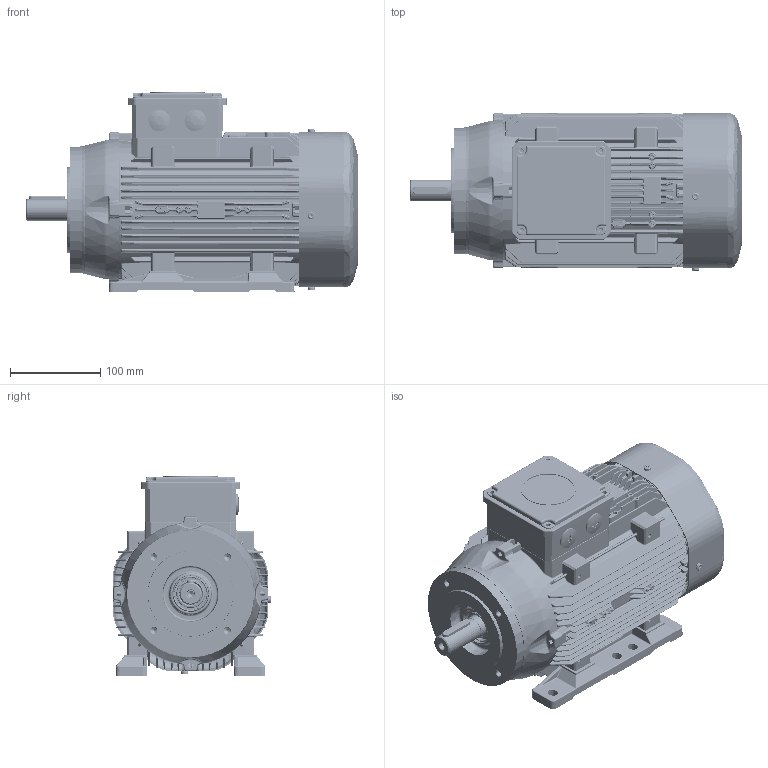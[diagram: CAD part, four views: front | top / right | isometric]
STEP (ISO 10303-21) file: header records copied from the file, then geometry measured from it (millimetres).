
FILE_DESCRIPTION(/* description */ (''),/* implementation_level */ '2;1');
FILE_NAME(/* name */ 'OUTLOOK VIEW QH90 PC B34 FT115 SPL.stp',/* time_stamp */ '2021-09-21T14:13:08+03:00',/* author */ (''),/* organization */ (''),/* preprocessor_version */ 'ST-DEVELOPER v16',/* originating_system */ 'SIEMENS PLM Software NX 11.0',/* authorisation */ '');
FILE_SCHEMA (('AUTOMOTIVE_DESIGN { 1 0 10303 214 3 1 1 1 }'));
Products named in the file (1): 260652D491E0rwf2
Bounding box: 367.71 x 175.21 x 221.3 mm (x, y, z)
Volume: 1769746.5 mm3; surface area: 1021370.2 mm2
Topology: 41 solids, 50 shells, 11209 faces, 26810 edges, 15337 vertices
Faces by surface type: cylinder 3689, bspline 3654, plane 2384, torus 528, sphere 474, cone 408, extrusion 72
Full cylindrical faces by diameter (mm): 2.5 x2, 3.242 x3, 3.4 x48, 4 x4, 4.2 x1, 4.6 x12, 4.722 x3, 5 x31, 5.5 x4, 6.8 x5, 8 x3, 8.4 x1, 9.874 x1, 14 x2, 19.4 x1, 20 x1, 21 x1, 23.38 x2, 23.4 x1, 23.9 x1, 24 x3, 24.4 x2, 25 x5, 25.5 x2, 27.5 x1, 27.94 x1, 29 x2, 30 x1, 34.35 x4, 36.6 x4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
Entity records: 400937 total; most frequent: CARTESIAN_POINT 163475, ORIENTED_EDGE 51032, DIRECTION 45629, EDGE_CURVE 25516, AXIS2_PLACEMENT_3D 18444, VERTEX_POINT 15089, EDGE_LOOP 12147, ADVANCED_FACE 11167
